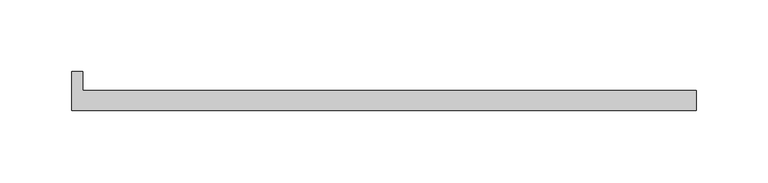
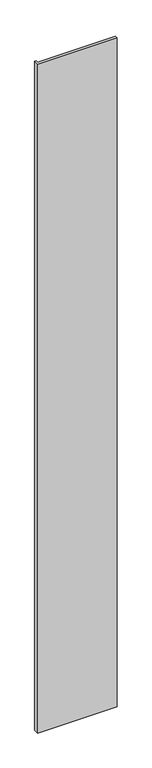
"""IFC4 building model written with IfcOpenShell, lengths in millimetres: plate geometry, Walls_Curtain-Walls_Danpal_AIRPT : Walls_Curtain-Walls_Danpal_AIRPT."""

from ifc_helpers import new_model, si_unit, origin, origin_with_axes, place, context, project, spatial, polyline, outline, extrude, source, transform, mapped, element, save


def plate_dcdef4b8(model_context):
    return source(origin(), model_context, "Body", "SweptSolid", [
        extrude(outline(polyline([(-210.6125509, 14.1228126), (218.3319078, 14.1228126), (218.3319078, 0.0), (-218.3319078, 0.0), (-218.3319078, 27.3924397), (-210.6125509, 27.3924397), (-210.6125509, 14.1228126)])), origin_with_axes(), (0.0, 0.0, 1.0), 3887.6638156),
    ])


if __name__ == "__main__":
    model = new_model("IFC4")
    model_context = context("Model", 3, world=origin())
    ifc_project = project(units=[si_unit("LENGTHUNIT", "METRE", prefix="MILLI")], contexts=[model_context])
    site = spatial("IfcSite", under=ifc_project)
    building = spatial("IfcBuilding", under=site)
    placement = place(None, origin())
    plate_shape = plate_dcdef4b8(model_context)
    element("IfcPlate", 1, ObjectType="Walls_Curtain-Walls_Danpal_AIRPT : Walls_Curtain-Walls_Danpal_AIRPT", at=placement, inside=building, context=model_context, shape_type="MappedRepresentation", body=[
        mapped(plate_shape, transform((0.0, 0.0, 0.0), x_axis=(1.0, 0.0, 0.0), y_axis=(0.0, 1.0, 0.0), z_axis=(0.0, 0.0, 1.0))),
    ])
    save(model, "model.ifc")
